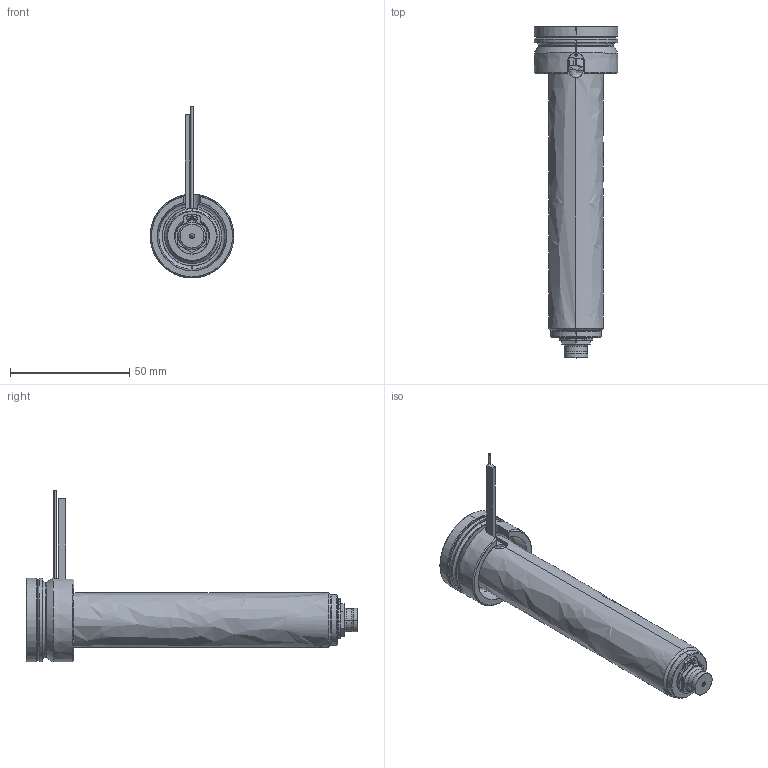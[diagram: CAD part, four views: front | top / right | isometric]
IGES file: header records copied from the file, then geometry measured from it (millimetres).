
Start section: SolidWorks IGES file using analytic representation for surfaces
Global section: file name: C:\Documents and Settings\ws-20\Desktop\TEM\UGEP3153-S-A-1 [Øf-0.70 P-0 ØC-6.0].IGS; native system: SolidWorks 2012; preprocessor: SolidWorks 2012; author: ws-20; date: 120404.080940; units: millimetre
Bounding box: 35 x 139 x 71.9 mm (x, y, z)
Surface area: 27967.7 mm2 (no closed solid volume)
Topology: 0 solids, 0 shells, 133 faces, 2060 edges, 2060 vertices
Faces by surface type: revolution 82, bspline 51
